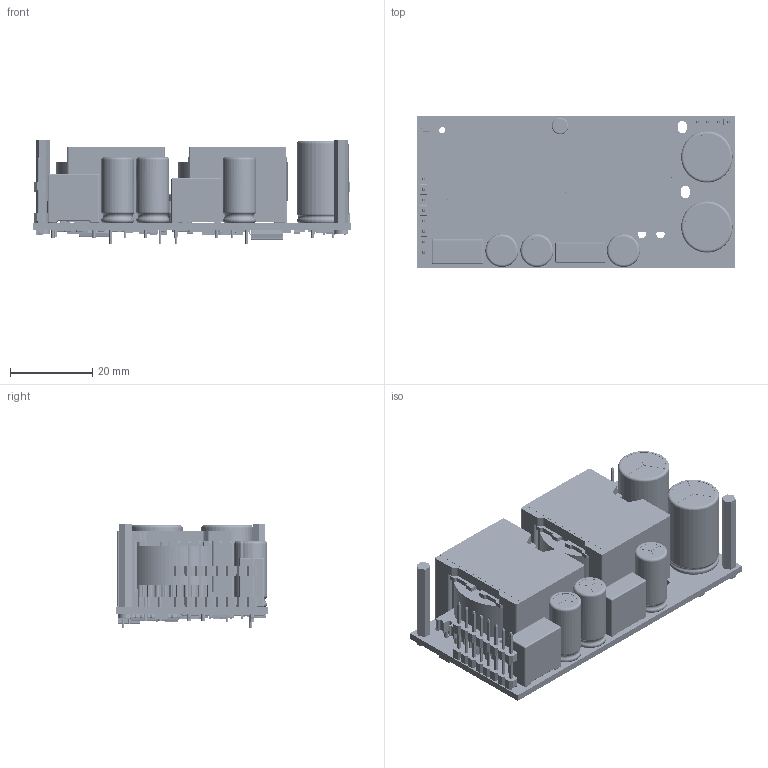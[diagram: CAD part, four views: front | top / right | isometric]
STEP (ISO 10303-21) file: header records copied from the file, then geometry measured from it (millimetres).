
FILE_DESCRIPTION(('Designed by EasyEDA Pro'),'2;1');
FILE_NAME('Open CASCADE Shape Model','2026-06-19T09:25:38',('Author'),( 'Open CASCADE'),'Open CASCADE STEP processor 7.8','Open CASCADE 7.8' ,'Unknown');
FILE_SCHEMA(('AUTOMOTIVE_DESIGN { 1 0 10303 214 1 1 1 1 }'));
Length unit declared in the file: millimetre
Products named in the file (701): EasyEDA PCB Model~0dvk; Board~0dvk; TopCopper~0dvk; BottomCopper~0dvk; TopSilkscreen~0dvk; BottomSilkscreen~0dvk; TopFpcStiffener~0dvk; BottomFpcStiffener~0dvk; L1~ATQ2818L1~ATQ2818L1.step~XmMi; ATQ2818L1~ATQ2818L1.step~3IhP; T1~ATQ2818L~ATQ2818B.step~uk4K; ATQ2818L~ATQ2818B.step~O3Mx; M1~M2螺丝~M2-20铜柱.step~YvoL; M2螺丝~M2-20铜柱.step~OpsQ; M2~M2螺丝~M2-20铜柱.step~TP0L; SOD-123_L2.8-W1.8-LS3.7-RD~SOD-123_L2.8-W1.8-LS3.7-RD~gmaA; D5~SOD-123_L2.8-W1.8-LS3.7-RD~SOD-123_L2.8-W1.8-LS3.7-RD~E2f6; R0805~R0805_L2.0-W1.3-H0.6~Cv0z; R20~R0805~R0805_L2.0-W1.3-H0.6~GSVu; SOD-323_L1.7-W1.3-LS2.6-RD~SOD-323_L1.7-W1.3-LS2.6-RD~mUKB; D4~SOD-323_L1.7-W1.3-LS2.6-RD~SOD-323_L1.7-W1.3-LS2.6-RD~xiOD; SOD-123_L2.7-W1.6-LS3.6-RD~SOD-123_L2.7-W1.6-LS3.6-RD~EtAH; D3~SOD-123_L2.7-W1.6-LS3.6-RD~SOD-123_L2.7-W1.6-LS3.6-RD~EH71; R0603~R0603~W8B6; R18~R0603~R0603~0VQP; R17~R0603~R0603~SKTI; R13~R0603~R0603~Wicn; R19~R0603~R0603~30uk; R15~R0603~R0603~3lRX; R12~R0603~R0603~0MrC; R5~R0603~R0603~bM2N; R29~R0603~R0603~cWFV; R27~R0603~R0603~VLdK; R23~R0603~R0603~PJZf; R24~R0603~R0603~NwTX; R25~R0603~R0603~aK2Z; R28~R0603~R0603~nqHV; R16~R0603~R0603~qequ; R31~R0603~R0603~7x3i; R30~R0603~R0603~LD7Z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
Assembly tree (765 placements, depth 5):
  EasyEDA PCB Model~0dvk
    Board~0dvk
    TopCopper~0dvk
    BottomCopper~0dvk
    TopSilkscreen~0dvk
      TopSilkscreen~0dvk
      TopSilkscreen~0dvk
      TopSilkscreen~0dvk
      TopSilkscreen~0dvk
      TopSilkscreen~0dvk
      TopSilkscreen~0dvk
      TopSilkscreen~0dvk
      TopSilkscreen~0dvk
      TopSilkscreen~0dvk
      TopSilkscreen~0dvk
      TopSilkscreen~0dvk
      TopSilkscreen~0dvk
      TopSilkscreen~0dvk
      TopSilkscreen~0dvk
      TopSilkscreen~0dvk
      TopSilkscreen~0dvk
      TopSilkscreen~0dvk
      TopSilkscreen~0dvk
      TopSilkscreen~0dvk
      TopSilkscreen~0dvk
      TopSilkscreen~0dvk
      TopSilkscreen~0dvk
      TopSilkscreen~0dvk
      TopSilkscreen~0dvk
      TopSilkscreen~0dvk
      TopSilkscreen~0dvk
      TopSilkscreen~0dvk
      TopSilkscreen~0dvk
      TopSilkscreen~0dvk
      TopSilkscreen~0dvk
      TopSilkscreen~0dvk
      TopSilkscreen~0dvk
      TopSilkscreen~0dvk
      TopSilkscreen~0dvk
      TopSilkscreen~0dvk
      TopSilkscreen~0dvk
      TopSilkscreen~0dvk
      TopSilkscreen~0dvk
      TopSilkscreen~0dvk
      TopSilkscreen~0dvk
      TopSilkscreen~0dvk
      TopSilkscreen~0dvk
      TopSilkscreen~0dvk
      TopSilkscreen~0dvk
      TopSilkscreen~0dvk
      TopSilkscreen~0dvk
      TopSilkscreen~0dvk
      TopSilkscreen~0dvk
      TopSilkscreen~0dvk
      TopSilkscreen~0dvk
      TopSilkscreen~0dvk
      TopSilkscreen~0dvk
      TopSilkscreen~0dvk
      TopSilkscreen~0dvk
      TopSilkscreen~0dvk
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Bounding box: 76.97 x 36.97 x 25.1 mm (x, y, z)
Volume: 58563.4 mm3; surface area: 43914.3 mm2
Topology: 279 solids, 783 shells, 29412 faces, 117319 edges, 90531 vertices
Faces by surface type: plane 18315, bspline 8813, cylinder 1745, sphere 336, torus 199, cone 4
Entity records: 857724 total; most frequent: CARTESIAN_POINT 203792, ORIENTED_EDGE 106205, DIRECTION 90606, EDGE_CURVE 72624, LINE 62156, VECTOR 62156, VERTEX_POINT 61088, AXIS2_PLACEMENT_3D 14225
